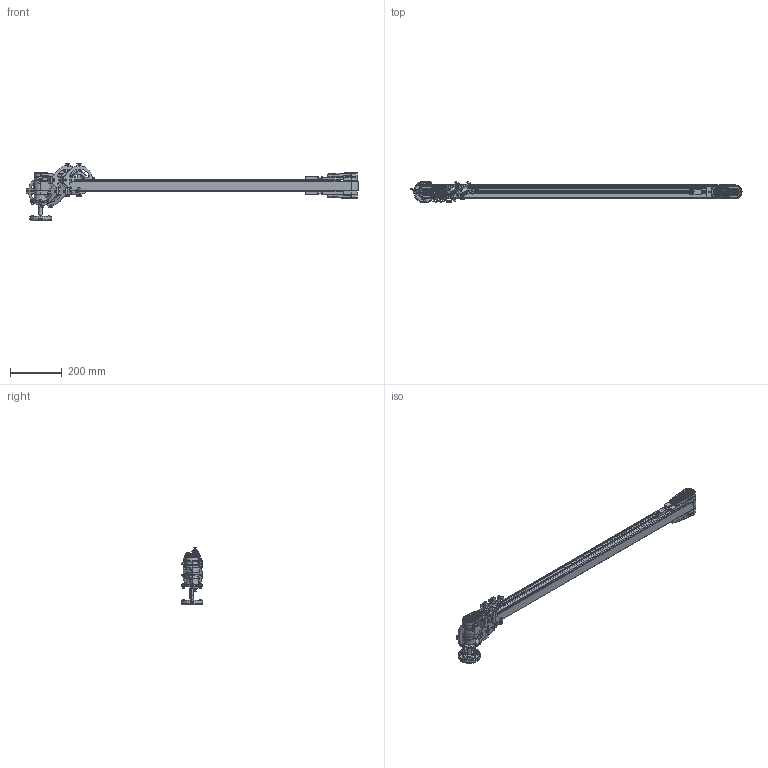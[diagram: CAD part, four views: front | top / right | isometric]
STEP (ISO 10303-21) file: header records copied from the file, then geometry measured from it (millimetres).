
FILE_DESCRIPTION (( 'STEP AP203' ), '1' );
FILE_NAME ('NASTRO_PISTE_PARALLELE.step', '2026-04-27T12:37:30', ( 'Utente Windows' ), ( '' ), 'SwSTEP 2.0', 'SolidWorks 2024', '' );
FILE_SCHEMA (( 'CONFIG_CONTROL_DESIGN' ));
Length unit declared in the file: millimetre
Products named in the file (29): 084.802.071; VITI TE UNI 5739_M6x16 UNI 5739; 084.000.A47_VF30P; D50_L35_TAPPETO_TRAINO_CORTO_PISTA_SINGOLA_DX; 084.808.014; VITI TCEI UNI 5931_M4x12 UNI 5931; 084.815.111; 084.802.017_084.802.017; VITI TE UNI 5739_M8x12 UNI 5739; 084.802.061; VITI TCEI UNI 5931_M6x12 UNI 5931; TAPPETO_STANDARD; D50_L35_TAPPETO_RINVIO_CORTO; 084.803.018; TELAIO_45X45_Default<A macchina>; 084.802.008; 084.807.004_084.807.004; 084.802.062; 084.802.060_Default<A macchina>; 084.302.000 DADI ALUSIC 13x13_084.302.004; 084.807.013_084.807.003; PROFILO_POLIZENE_TAPPETO_L35_Default<A macchina>; 084.000.A49_SA37; VITI TE UNI 5739_M6x12 UNI 5739; CHIAVETTE_A 5x5x40 UNI 6604-69; 084.815.110-1; NASTRO_PISTE_PARALLELE; 084.808.012; 084.301.000 VITI ALUSIC_084.301.003
Assembly tree (63 placements, depth 4):
  NASTRO_PISTE_PARALLELE
    TAPPETO_STANDARD
    PROFILO_POLIZENE_TAPPETO_L35_Default<A macchina>
    TELAIO_45X45_Default<A macchina>
    D50_L35_TAPPETO_TRAINO_CORTO_PISTA_SINGOLA_DX
      084.807.013_084.807.003
      084.802.017_084.802.017  x2
      084.815.110-1
      084.807.004_084.807.004
      084.802.071
      084.000.A47_VF30P
        084.808.012
        084.802.062
        084.802.061
        VITI TE UNI 5739_M6x16 UNI 5739  x4
        084.803.018
        VITI TCEI UNI 5931_M6x12 UNI 5931  x4
      084.000.A49_SA37  x4
        084.808.014
        084.802.060_Default<A macchina>
        VITI TE UNI 5739_M8x12 UNI 5739
        084.802.062
        VITI TE UNI 5739_M6x12 UNI 5739
      CHIAVETTE_A 5x5x40 UNI 6604-69
      VITI TCEI UNI 5931_M4x12 UNI 5931  x2
    D50_L35_TAPPETO_RINVIO_CORTO
      084.815.111
      084.301.000 VITI ALUSIC_084.301.003  x6
      084.302.000 DADI ALUSIC 13x13_084.302.004  x6
      084.807.013_084.807.003  x2
      084.802.017_084.802.017  x2
      084.802.008  x2
      084.802.071  x2
Bounding box: 1283.78 x 84.99 x 223.05 mm (x, y, z)
Volume: 2315846.7 mm3; surface area: 1274049.8 mm2
Topology: 97 solids, 101 shells, 5613 faces, 14332 edges, 9116 vertices
Faces by surface type: plane 2662, cylinder 1078, cone 856, bspline 624, torus 351, sphere 42
Entity records: 83921 total; most frequent: CARTESIAN_POINT 28098, ORIENTED_EDGE 11352, DIRECTION 10032, EDGE_CURVE 5676, VERTEX_POINT 3652, AXIS2_PLACEMENT_3D 3473, VECTOR 3086, LINE 3086
